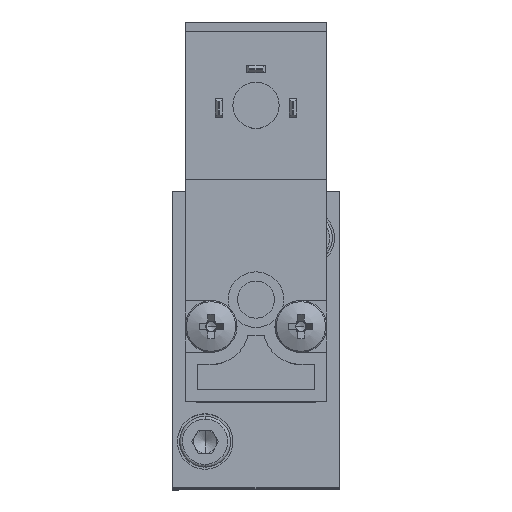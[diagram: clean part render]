
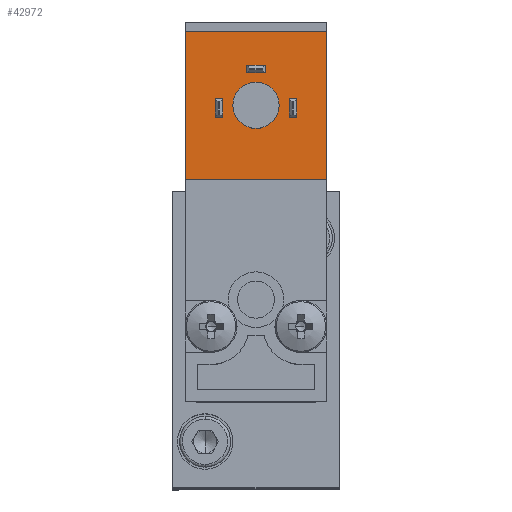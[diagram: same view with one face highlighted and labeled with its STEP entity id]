
A CAD part, top view. The second image highlights one B-rep face of the part: STEP entity #42972.
In plain terms, the highlighted planar face has unit normal (0, 0, 1).
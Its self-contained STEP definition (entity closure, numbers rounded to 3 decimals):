
#54 = LINE ( 'NONE', #6373, #7936 ) ;
#215 = FACE_BOUND ( 'NONE', #30756, .T. ) ;
#287 = DIRECTION ( 'NONE',  ( 1., 0., 0. ) ) ;
#873 = DIRECTION ( 'NONE',  ( 0., 0., 1. ) ) ;
#1221 = VECTOR ( 'NONE', #10655, 1000. ) ;
#1664 = LINE ( 'NONE', #40434, #42673 ) ;
#1721 = CARTESIAN_POINT ( 'NONE',  ( 36.693, 62.145, 118.714 ) ) ;
#1809 = ORIENTED_EDGE ( 'NONE', *, *, #15956, .F. ) ;
#2013 = VECTOR ( 'NONE', #18578, 1000. ) ;
#2092 = CARTESIAN_POINT ( 'NONE',  ( 25.443, 54.845, 118.714 ) ) ;
#2381 = EDGE_CURVE ( 'NONE', #10330, #40974, #41741, .T. ) ;
#3353 = CARTESIAN_POINT ( 'NONE',  ( 28.043, 57.645, 118.714 ) ) ;
#3778 = VERTEX_POINT ( 'NONE', #21283 ) ;
#4240 = ORIENTED_EDGE ( 'NONE', *, *, #14483, .F. ) ;
#4311 = VERTEX_POINT ( 'NONE', #2092 ) ;
#5396 = DIRECTION ( 'NONE',  ( 0., 1., 0. ) ) ;
#5494 = CARTESIAN_POINT ( 'NONE',  ( 28.043, 58.445, 118.714 ) ) ;
#5512 = ORIENTED_EDGE ( 'NONE', *, *, #16073, .F. ) ;
#5549 = VERTEX_POINT ( 'NONE', #1721 ) ;
#5640 = CARTESIAN_POINT ( 'NONE',  ( 25.443, 52.845, 118.714 ) ) ;
#6015 = ORIENTED_EDGE ( 'NONE', *, *, #35470, .T. ) ;
#6354 = VERTEX_POINT ( 'NONE', #28491 ) ;
#6373 = CARTESIAN_POINT ( 'NONE',  ( 36.693, 54.645, 118.714 ) ) ;
#7005 = CARTESIAN_POINT ( 'NONE',  ( 21.393, 22.145, 118.714 ) ) ;
#7552 = DIRECTION ( 'NONE',  ( 1., 0., 0. ) ) ;
#7603 = CARTESIAN_POINT ( 'NONE',  ( 30.043, 58.445, 118.714 ) ) ;
#7693 = VECTOR ( 'NONE', #21731, 1000. ) ;
#7936 = VECTOR ( 'NONE', #42758, 1000. ) ;
#8089 = FACE_BOUND ( 'NONE', #30874, .T. ) ;
#8203 = CARTESIAN_POINT ( 'NONE',  ( 21.393, 62.145, 118.714 ) ) ;
#8456 = VERTEX_POINT ( 'NONE', #5494 ) ;
#8504 = VERTEX_POINT ( 'NONE', #5640 ) ;
#8525 = VECTOR ( 'NONE', #12764, 1000. ) ;
#8553 = CARTESIAN_POINT ( 'NONE',  ( 28.043, 57.645, 118.714 ) ) ;
#8593 = CARTESIAN_POINT ( 'NONE',  ( 24.643, 54.845, 118.714 ) ) ;
#8710 = CARTESIAN_POINT ( 'NONE',  ( 30.043, 58.445, 118.714 ) ) ;
#8991 = ORIENTED_EDGE ( 'NONE', *, *, #27732, .F. ) ;
#9095 = EDGE_LOOP ( 'NONE', ( #34831, #20080, #4240, #35922 ) ) ;
#9453 = VECTOR ( 'NONE', #16706, 1000. ) ;
#9532 = LINE ( 'NONE', #32621, #8525 ) ;
#10079 = LINE ( 'NONE', #33792, #1221 ) ;
#10156 = FACE_OUTER_BOUND ( 'NONE', #40106, .T. ) ;
#10330 = VERTEX_POINT ( 'NONE', #17361 ) ;
#10592 = VECTOR ( 'NONE', #25316, 1000. ) ;
#10655 = DIRECTION ( 'NONE',  ( 0., 1., 0. ) ) ;
#10897 = VECTOR ( 'NONE', #38611, 1000. ) ;
#10916 = ORIENTED_EDGE ( 'NONE', *, *, #37901, .F. ) ;
#11135 = ORIENTED_EDGE ( 'NONE', *, *, #33209, .T. ) ;
#11739 = CARTESIAN_POINT ( 'NONE',  ( 32.643, 54.845, 118.714 ) ) ;
#12181 = CARTESIAN_POINT ( 'NONE',  ( 33.443, 52.845, 118.714 ) ) ;
#12572 = VECTOR ( 'NONE', #30614, 1000. ) ;
#12573 = ORIENTED_EDGE ( 'NONE', *, *, #25458, .T. ) ;
#12764 = DIRECTION ( 'NONE',  ( 0., -1., 0. ) ) ;
#13142 = VECTOR ( 'NONE', #23780, 1000. ) ;
#13270 = VECTOR ( 'NONE', #40900, 1000. ) ;
#14483 = EDGE_CURVE ( 'NONE', #20574, #3778, #20732, .T. ) ;
#15479 = CARTESIAN_POINT ( 'NONE',  ( 32.643, 54.845, 118.714 ) ) ;
#15656 = VERTEX_POINT ( 'NONE', #8593 ) ;
#15718 = ORIENTED_EDGE ( 'NONE', *, *, #24021, .F. ) ;
#15892 = CIRCLE ( 'NONE', #24366, 2.5 ) ;
#15956 = EDGE_CURVE ( 'NONE', #4311, #15656, #22132, .T. ) ;
#16073 = EDGE_CURVE ( 'NONE', #8456, #27686, #21085, .T. ) ;
#16222 = VERTEX_POINT ( 'NONE', #29092 ) ;
#16706 = DIRECTION ( 'NONE',  ( 1., 0., 0. ) ) ;
#16923 = EDGE_CURVE ( 'NONE', #8456, #21977, #25112, .T. ) ;
#17164 = VECTOR ( 'NONE', #5396, 1000. ) ;
#17203 = VERTEX_POINT ( 'NONE', #15479 ) ;
#17361 = CARTESIAN_POINT ( 'NONE',  ( 26.543, 54.145, 118.714 ) ) ;
#18578 = DIRECTION ( 'NONE',  ( -1., 0., 0. ) ) ;
#18673 = CARTESIAN_POINT ( 'NONE',  ( 24.643, 52.845, 118.714 ) ) ;
#19167 = EDGE_CURVE ( 'NONE', #6354, #17203, #41915, .T. ) ;
#19170 = DIRECTION ( 'NONE',  ( 0., -1., 0. ) ) ;
#19246 = LINE ( 'NONE', #19908, #9453 ) ;
#19259 = VERTEX_POINT ( 'NONE', #42193 ) ;
#19908 = CARTESIAN_POINT ( 'NONE',  ( 29.043, 46.145, 118.714 ) ) ;
#20080 = ORIENTED_EDGE ( 'NONE', *, *, #24897, .T. ) ;
#20172 = DIRECTION ( 'NONE',  ( 0., 0., -1. ) ) ;
#20574 = VERTEX_POINT ( 'NONE', #35243 ) ;
#20732 = LINE ( 'NONE', #12181, #10897 ) ;
#20750 = CARTESIAN_POINT ( 'NONE',  ( 29.043, 54.645, 118.714 ) ) ;
#21085 = LINE ( 'NONE', #8553, #33490 ) ;
#21283 = CARTESIAN_POINT ( 'NONE',  ( 33.443, 52.845, 118.714 ) ) ;
#21731 = DIRECTION ( 'NONE',  ( -1., 0., 0. ) ) ;
#21977 = VERTEX_POINT ( 'NONE', #7603 ) ;
#22132 = LINE ( 'NONE', #40740, #13270 ) ;
#22857 = LINE ( 'NONE', #41926, #17164 ) ;
#23622 = DIRECTION ( 'NONE',  ( 0., 1., 0. ) ) ;
#23780 = DIRECTION ( 'NONE',  ( 1., 0., 0. ) ) ;
#24021 = EDGE_CURVE ( 'NONE', #24680, #5549, #1664, .T. ) ;
#24081 = DIRECTION ( 'NONE',  ( 1., 0., 0. ) ) ;
#24333 = EDGE_CURVE ( 'NONE', #4311, #8504, #40763, .T. ) ;
#24366 = AXIS2_PLACEMENT_3D ( 'NONE', #40075, #20172, #287 ) ;
#24680 = VERTEX_POINT ( 'NONE', #8203 ) ;
#24897 = EDGE_CURVE ( 'NONE', #6354, #3778, #9532, .T. ) ;
#24962 = ORIENTED_EDGE ( 'NONE', *, *, #25087, .F. ) ;
#25087 = EDGE_CURVE ( 'NONE', #40586, #8504, #30255, .T. ) ;
#25112 = LINE ( 'NONE', #40342, #13142 ) ;
#25316 = DIRECTION ( 'NONE',  ( 0., 1., 0. ) ) ;
#25390 = ORIENTED_EDGE ( 'NONE', *, *, #2381, .T. ) ;
#25458 = EDGE_CURVE ( 'NONE', #31943, #5549, #54, .T. ) ;
#25683 = FACE_BOUND ( 'NONE', #26007, .T. ) ;
#26007 = EDGE_LOOP ( 'NONE', ( #30814, #10916, #6015, #5512 ) ) ;
#27276 = CARTESIAN_POINT ( 'NONE',  ( 25.443, 52.845, 118.714 ) ) ;
#27305 = PLANE ( 'NONE',  #28745 ) ;
#27686 = VERTEX_POINT ( 'NONE', #3353 ) ;
#27732 = EDGE_CURVE ( 'NONE', #16222, #24680, #41721, .T. ) ;
#28267 = ORIENTED_EDGE ( 'NONE', *, *, #28536, .T. ) ;
#28491 = CARTESIAN_POINT ( 'NONE',  ( 33.443, 54.845, 118.714 ) ) ;
#28536 = EDGE_CURVE ( 'NONE', #16222, #31943, #19246, .T. ) ;
#28745 = AXIS2_PLACEMENT_3D ( 'NONE', #20750, #873, #24081 ) ;
#29092 = CARTESIAN_POINT ( 'NONE',  ( 21.393, 46.145, 118.714 ) ) ;
#30255 = LINE ( 'NONE', #27276, #12572 ) ;
#30614 = DIRECTION ( 'NONE',  ( 1., 0., 0. ) ) ;
#30756 = EDGE_LOOP ( 'NONE', ( #1809, #38230, #24962, #40661 ) ) ;
#30814 = ORIENTED_EDGE ( 'NONE', *, *, #16923, .T. ) ;
#30874 = EDGE_LOOP ( 'NONE', ( #11135, #25390 ) ) ;
#31708 = DIRECTION ( 'NONE',  ( 0., -1., 0. ) ) ;
#31913 = VECTOR ( 'NONE', #19170, 1000. ) ;
#31943 = VERTEX_POINT ( 'NONE', #41515 ) ;
#32490 = AXIS2_PLACEMENT_3D ( 'NONE', #37125, #36967, #36671 ) ;
#32621 = CARTESIAN_POINT ( 'NONE',  ( 33.443, 54.645, 118.714 ) ) ;
#32836 = VECTOR ( 'NONE', #23622, 1000. ) ;
#33209 = EDGE_CURVE ( 'NONE', #40974, #10330, #15892, .T. ) ;
#33490 = VECTOR ( 'NONE', #31708, 1000. ) ;
#33792 = CARTESIAN_POINT ( 'NONE',  ( 24.643, 54.645, 118.714 ) ) ;
#34831 = ORIENTED_EDGE ( 'NONE', *, *, #19167, .F. ) ;
#35243 = CARTESIAN_POINT ( 'NONE',  ( 32.643, 52.845, 118.714 ) ) ;
#35470 = EDGE_CURVE ( 'NONE', #19259, #27686, #36188, .T. ) ;
#35922 = ORIENTED_EDGE ( 'NONE', *, *, #39003, .T. ) ;
#36188 = LINE ( 'NONE', #38468, #2013 ) ;
#36671 = DIRECTION ( 'NONE',  ( 1., 0., 0. ) ) ;
#36967 = DIRECTION ( 'NONE',  ( 0., 0., -1. ) ) ;
#36997 = LINE ( 'NONE', #8710, #10592 ) ;
#37125 = CARTESIAN_POINT ( 'NONE',  ( 29.043, 54.145, 118.714 ) ) ;
#37901 = EDGE_CURVE ( 'NONE', #19259, #21977, #36997, .T. ) ;
#38230 = ORIENTED_EDGE ( 'NONE', *, *, #24333, .T. ) ;
#38468 = CARTESIAN_POINT ( 'NONE',  ( 29.043, 57.645, 118.714 ) ) ;
#38611 = DIRECTION ( 'NONE',  ( 1., 0., 0. ) ) ;
#39003 = EDGE_CURVE ( 'NONE', #20574, #17203, #22857, .T. ) ;
#40075 = CARTESIAN_POINT ( 'NONE',  ( 29.043, 54.145, 118.714 ) ) ;
#40106 = EDGE_LOOP ( 'NONE', ( #15718, #8991, #28267, #12573 ) ) ;
#40342 = CARTESIAN_POINT ( 'NONE',  ( 29.043, 58.445, 118.714 ) ) ;
#40434 = CARTESIAN_POINT ( 'NONE',  ( 25.218, 62.145, 118.714 ) ) ;
#40567 = CARTESIAN_POINT ( 'NONE',  ( 31.543, 54.145, 118.714 ) ) ;
#40586 = VERTEX_POINT ( 'NONE', #18673 ) ;
#40661 = ORIENTED_EDGE ( 'NONE', *, *, #41567, .T. ) ;
#40740 = CARTESIAN_POINT ( 'NONE',  ( 24.643, 54.845, 118.714 ) ) ;
#40763 = LINE ( 'NONE', #42436, #31913 ) ;
#40900 = DIRECTION ( 'NONE',  ( -1., 0., 0. ) ) ;
#40974 = VERTEX_POINT ( 'NONE', #40567 ) ;
#41515 = CARTESIAN_POINT ( 'NONE',  ( 36.693, 46.145, 118.714 ) ) ;
#41567 = EDGE_CURVE ( 'NONE', #40586, #15656, #10079, .T. ) ;
#41721 = LINE ( 'NONE', #7005, #32836 ) ;
#41741 = CIRCLE ( 'NONE', #32490, 2.5 ) ;
#41915 = LINE ( 'NONE', #11739, #7693 ) ;
#41926 = CARTESIAN_POINT ( 'NONE',  ( 32.643, 54.645, 118.714 ) ) ;
#42193 = CARTESIAN_POINT ( 'NONE',  ( 30.043, 57.645, 118.714 ) ) ;
#42318 = FACE_BOUND ( 'NONE', #9095, .T. ) ;
#42436 = CARTESIAN_POINT ( 'NONE',  ( 25.443, 54.645, 118.714 ) ) ;
#42673 = VECTOR ( 'NONE', #7552, 1000. ) ;
#42758 = DIRECTION ( 'NONE',  ( 0., 1., 0. ) ) ;
#42972 = ADVANCED_FACE ( 'NONE', ( #10156, #8089, #25683, #215, #42318 ), #27305, .T. ) ;
